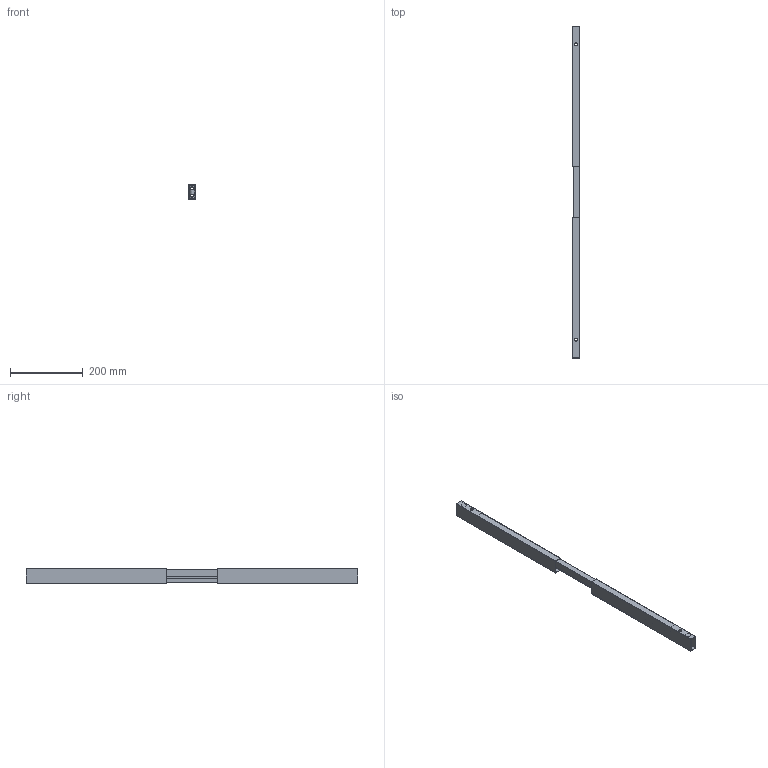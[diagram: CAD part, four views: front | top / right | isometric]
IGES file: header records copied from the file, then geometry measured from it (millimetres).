
Start section: Data from Parasolid IGES Translator 20.0.26, Copyright(c) 2006 Siemens P LM Software. All Rights Reserved.
Global section: file name: 46019.igs; native system: By Siemens PLM Incorporated; preprocessor: XPlus GENERIC/IGES 20.0.26; author: Noname; organization: Noname; date: 20210125.172454; units: millimetre
Bounding box: 20 x 910 x 40 mm (x, y, z)
Surface area: 299432.5 mm2 (no closed solid volume)
Topology: 0 solids, 0 shells, 63 faces, 342 edges, 287 vertices
Faces by surface type: extrusion 34, revolution 29
